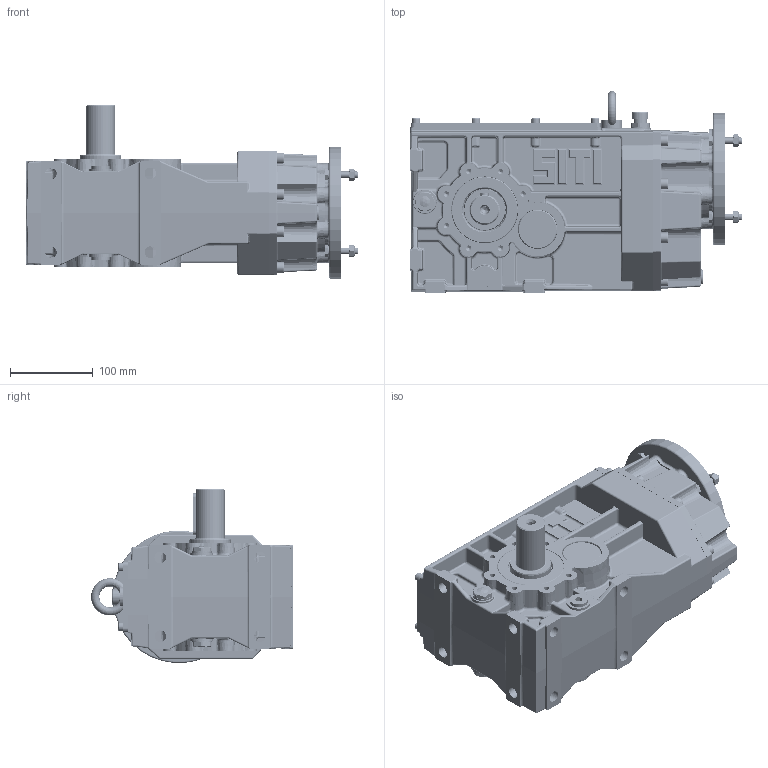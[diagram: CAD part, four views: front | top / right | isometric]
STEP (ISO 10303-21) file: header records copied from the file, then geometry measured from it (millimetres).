
FILE_DESCRIPTION((''),'2;1');
FILE_NAME('O:\Figurini\Figurini BH\3D\MBH 63 MS-B PAM 71 B5.stp','2013-04-22T12:52:00',('d.iannaccio'),(''),'Autodesk Inventor 2012','Autodesk Inventor 2012','');
FILE_SCHEMA(('AUTOMOTIVE_DESIGN { 1 0 10303 214 1 1 1 1 }'));
Length unit declared in the file: millimetre
Products named in the file (1): MBH_63 MS-B PAM 71 B5
Bounding box: 400.5 x 243.47 x 209.7 mm (x, y, z)
Volume: 3302336.2 mm3; surface area: 781155.6 mm2
Topology: 1 solids, 65 shells, 3820 faces, 9115 edges, 5491 vertices
Faces by surface type: plane 1164, cylinder 1080, bspline 716, cone 377, torus 360, sphere 123
Full cylindrical faces by diameter (mm): 4.917 x8, 6 x16, 6.5 x1, 6.647 x30, 7 x8, 8 x39, 8.376 x1, 8.4 x1, 8.5 x2, 9 x20, 10 x16, 10.39 x1, 11 x1, 11.445 x1, 11.63 x4, 13 x16, 13.8 x1, 14 x16, 14.95 x5, 16 x1, 18 x1, 19.5 x1, 20 x2, 25 x1, 28 x6, 33 x1, 34.589 x1, 34.989 x3, 35 x1, 43.875 x2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
Entity records: 129698 total; most frequent: CARTESIAN_POINT 44493, ORIENTED_EDGE 16616, DIRECTION 16438, EDGE_CURVE 8309, AXIS2_PLACEMENT_3D 6759, VERTEX_POINT 5271, EDGE_LOOP 4565, FACE_OUTER_BOUND 3820
